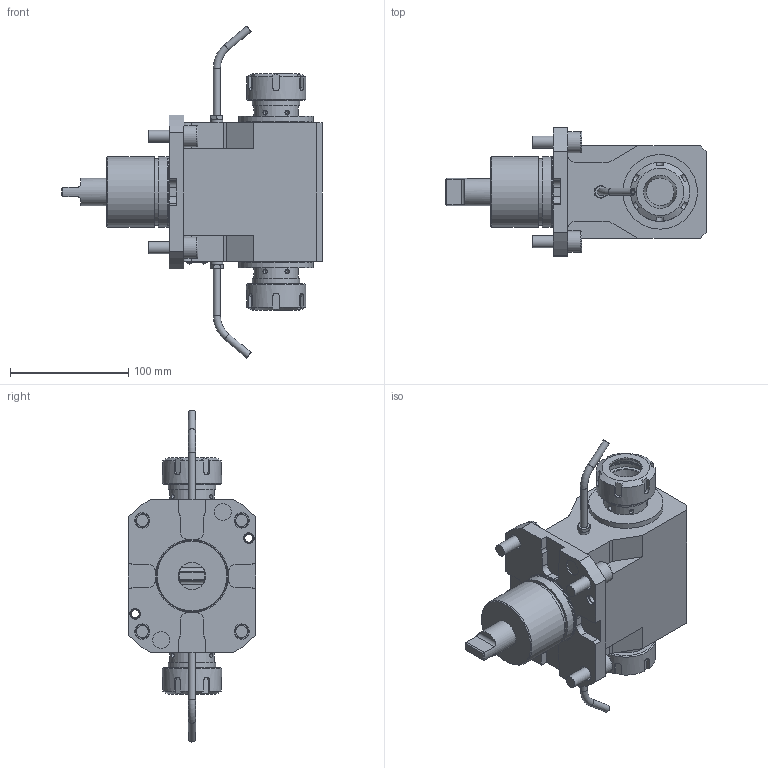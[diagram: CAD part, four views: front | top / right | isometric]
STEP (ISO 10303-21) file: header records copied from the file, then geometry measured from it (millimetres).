
FILE_DESCRIPTION(/* description */ (''),/* implementation_level */ '2;1');
FILE_NAME(/* name */ '191545',/* time_stamp */ '2023-04-24T08:09:14+02:00',/* author */ (''),/* organization */ (''),/* preprocessor_version */ 'ST-DEVELOPER v16.5',/* originating_system */ 'HiCAD 2017 2201.0 Build 268',/* authorisation */ '');
FILE_SCHEMA (('AUTOMOTIVE_DESIGN { 1 0 10303 214 1 1 1 1 }'));
Products named in the file (10): Root; Teil; QRSTUVWXYZ[\]^_`ABCDEFGHIJKLMNOPQRSTUVWXYZ{|}~\X2\20AC0081201A0191
201E20262020202102C62030016020390152008D017D008F009020182019201C201D2022
2013201402DC21220160203A0152009D017D017800A000A100A200A300A400A500A600A7
00A800A900AA00AB00AC00AD00AE00AF00B000B100B200B300B4F5C2FFFD7FFE\X0\; DIN 13-M40x1,5; DIN 13-M8
Assembly tree (9 placements, depth 3):
  Root
    Teil
      QRSTUVWXYZ[\]^_`ABCDEFGHIJKLMNOPQRSTUVWXYZ{|}~\X2\20AC0081201A0191
201E20262020202102C62030016020390152008D017D008F009020182019201C201D2022
2013201402DC21220160203A0152009D017D017800A000A100A200A300A400A500A600A7
00A800A900AA00AB00AC00AD00AE00AF00B000B100B200B300B4F5C2FFFD7FFE\X0\
      QRSTUVWXYZ[\]^_`ABCDEFGHIJKLMNOPQRSTUVWXYZ{|}~\X2\20AC0081201A0191
201E20262020202102C62030016020390152008D017D008F009020182019201C201D2022
2013201402DC21220160203A0152009D017D017800A000A100A200A300A400A500A600A7
00A800A900AA00AB00AC00AD00AE00AF00B000B100B200B300B4F5C2FFFD7FFE\X0\
      DIN 13-M40x1,5
      DIN 13-M40x1,5
      DIN 13-M40x1,5
      DIN 13-M40x1,5
      DIN 13-M8
      DIN 13-M8
Bounding box: 220 x 108 x 280.33 mm (x, y, z)
Volume: 1412704.7 mm3; surface area: 161282.1 mm2
Topology: 11 solids, 15 shells, 1566 faces, 4221 edges, 2803 vertices
Faces by surface type: plane 798, bspline 560, cylinder 147, torus 34, cone 23, sphere 4
Full cylindrical faces by diameter (mm): 2 x4, 2.2 x4, 4 x4, 4.1 x12, 6 x4, 6.8 x2, 8 x4, 8.773 x4, 9 x2, 10 x2, 10.2 x4, 12 x4, 13 x4, 14.1 x2, 18 x4, 23 x1, 23.5 x2, 28 x2, 37.4 x2, 38.16 x2, 38.5 x4, 40 x6, 41.351 x2, 50 x2, 55 x2, 55.8 x1, 59.5 x1, 59.9 x2, 60 x2, 63 x2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
Entity records: 99427 total; most frequent: CARTESIAN_POINT 27543, PRESENTATION_STYLE_ASSIGNMENT 8146, OVER_RIDING_STYLED_ITEM 8137, COLOUR_RGB 8080, DRAUGHTING_PRE_DEFINED_CURVE_FONT 8078, CURVE_STYLE 8078, ORIENTED_EDGE 8078, DIRECTION 4549
